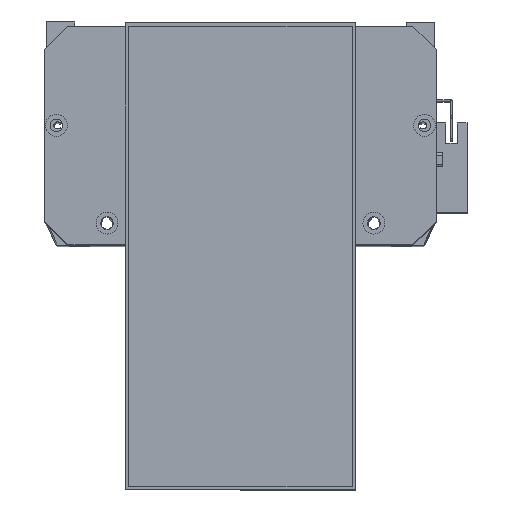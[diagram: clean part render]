
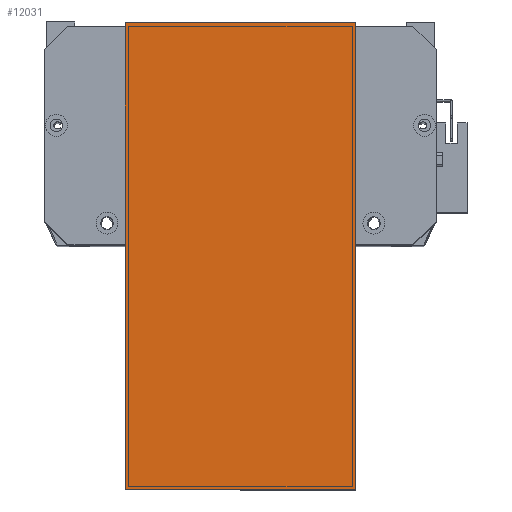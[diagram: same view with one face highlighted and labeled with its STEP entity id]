
A CAD part, top view. The second image highlights one B-rep face of the part: STEP entity #12031.
In plain terms, the highlighted planar face has unit normal (0, 0, 1) as drawn and (0, 0, -1) by its records, which use the part's own axes.
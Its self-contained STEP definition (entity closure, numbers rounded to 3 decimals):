
#583 = VERTEX_POINT ( 'NONE', #15759 ) ;
#2348 = PLANE ( 'NONE',  #26502 ) ;
#3329 = LINE ( 'NONE', #21719, #8878 ) ;
#3384 = DIRECTION ( 'NONE',  ( 1., 0., 0. ) ) ;
#4432 = DIRECTION ( 'NONE',  ( -1., 0., 0. ) ) ;
#5023 = ORIENTED_EDGE ( 'NONE', *, *, #12987, .T. ) ;
#5780 = ORIENTED_EDGE ( 'NONE', *, *, #20778, .F. ) ;
#6346 = LINE ( 'NONE', #22076, #16115 ) ;
#7180 = DIRECTION ( 'NONE',  ( 0., 1., 0. ) ) ;
#7389 = FACE_OUTER_BOUND ( 'NONE', #24073, .T. ) ;
#7413 = EDGE_CURVE ( 'NONE', #11531, #583, #23615, .T. ) ;
#7592 = CARTESIAN_POINT ( 'NONE',  ( -12., 119.5, 0. ) ) ;
#8878 = VECTOR ( 'NONE', #7180, 1000. ) ;
#9908 = ORIENTED_EDGE ( 'NONE', *, *, #14001, .F. ) ;
#10423 = CARTESIAN_POINT ( 'NONE',  ( 203., 19.5, 0. ) ) ;
#11531 = VERTEX_POINT ( 'NONE', #23715 ) ;
#11547 = LINE ( 'NONE', #7592, #26877 ) ;
#12031 = ADVANCED_FACE ( 'NONE', ( #7389 ), #2348, .T. ) ;
#12501 = ORIENTED_EDGE ( 'NONE', *, *, #7413, .F. ) ;
#12987 = EDGE_CURVE ( 'NONE', #11531, #20427, #11547, .T. ) ;
#14001 = EDGE_CURVE ( 'NONE', #21863, #20427, #3329, .T. ) ;
#15759 = CARTESIAN_POINT ( 'NONE',  ( 0., 19.5, 0. ) ) ;
#16115 = VECTOR ( 'NONE', #3384, 1000. ) ;
#16937 = DIRECTION ( 'NONE',  ( 0., 0., -1. ) ) ;
#18745 = VECTOR ( 'NONE', #22394, 1000. ) ;
#20300 = CARTESIAN_POINT ( 'NONE',  ( 0., 0., 0. ) ) ;
#20427 = VERTEX_POINT ( 'NONE', #21094 ) ;
#20778 = EDGE_CURVE ( 'NONE', #583, #21863, #6346, .T. ) ;
#21094 = CARTESIAN_POINT ( 'NONE',  ( 203., 119.5, 0. ) ) ;
#21719 = CARTESIAN_POINT ( 'NONE',  ( 203., 0., 0. ) ) ;
#21863 = VERTEX_POINT ( 'NONE', #10423 ) ;
#22076 = CARTESIAN_POINT ( 'NONE',  ( -12., 19.5, 0. ) ) ;
#22394 = DIRECTION ( 'NONE',  ( 0., -1., 0. ) ) ;
#23615 = LINE ( 'NONE', #20300, #18745 ) ;
#23715 = CARTESIAN_POINT ( 'NONE',  ( 0., 119.5, 0. ) ) ;
#24073 = EDGE_LOOP ( 'NONE', ( #5780, #12501, #5023, #9908 ) ) ;
#25224 = CARTESIAN_POINT ( 'NONE',  ( 0., 0., 0. ) ) ;
#26360 = DIRECTION ( 'NONE',  ( 1., 0., 0. ) ) ;
#26502 = AXIS2_PLACEMENT_3D ( 'NONE', #25224, #16937, #4432 ) ;
#26877 = VECTOR ( 'NONE', #26360, 1000. ) ;
